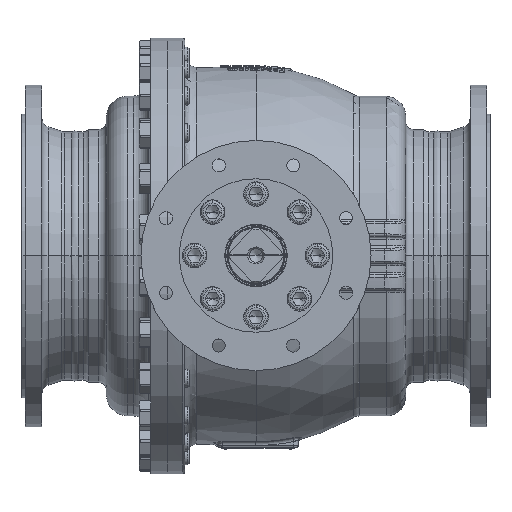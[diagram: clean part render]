
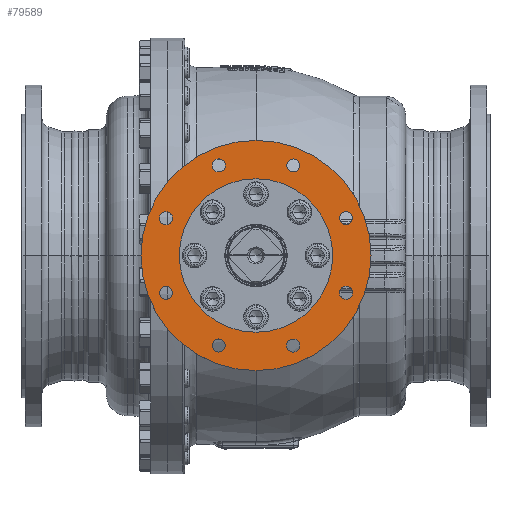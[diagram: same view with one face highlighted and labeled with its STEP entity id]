
A CAD part, top view. The second image highlights one B-rep face of the part: STEP entity #79589.
In plain terms, the highlighted planar face has unit normal (0, 0, 1).
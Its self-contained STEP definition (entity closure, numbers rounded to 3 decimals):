
#9987=CARTESIAN_POINT('',(0.,0.,376.));
#9988=DIRECTION('',(0.,0.,1.));
#9989=DIRECTION('',(0.,1.,0.));
#9990=AXIS2_PLACEMENT_3D('',#9987,#9988,#9989);
#9992=CARTESIAN_POINT('',(0.,0.,376.));
#9993=DIRECTION('',(0.,0.,-1.));
#9994=DIRECTION('',(0.,1.,0.));
#9995=AXIS2_PLACEMENT_3D('',#9992,#9993,#9994);
#9997=CARTESIAN_POINT('',(-48.601,-117.333,376.));
#9998=DIRECTION('',(0.,0.,-1.));
#9999=DIRECTION('',(0.,-1.,0.));
#10000=AXIS2_PLACEMENT_3D('',#9997,#9998,#9999);
#10002=CARTESIAN_POINT('',(-48.601,-117.333,376.));
#10003=DIRECTION('',(0.,0.,-1.));
#10004=DIRECTION('',(0.,1.,0.));
#10005=AXIS2_PLACEMENT_3D('',#10002,#10003,#10004);
#10007=CARTESIAN_POINT('',(-117.333,-48.601,376.));
#10008=DIRECTION('',(0.,0.,-1.));
#10009=DIRECTION('',(-0.707,-0.707,0.));
#10010=AXIS2_PLACEMENT_3D('',#10007,#10008,#10009);
#10012=CARTESIAN_POINT('',(-117.333,-48.601,376.));
#10013=DIRECTION('',(0.,0.,-1.));
#10014=DIRECTION('',(0.707,0.707,0.));
#10015=AXIS2_PLACEMENT_3D('',#10012,#10013,#10014);
#10017=CARTESIAN_POINT('',(-117.333,48.601,376.));
#10018=DIRECTION('',(0.,0.,-1.));
#10019=DIRECTION('',(-1.,0.,0.));
#10020=AXIS2_PLACEMENT_3D('',#10017,#10018,#10019);
#10022=CARTESIAN_POINT('',(-117.333,48.601,376.));
#10023=DIRECTION('',(0.,0.,-1.));
#10024=DIRECTION('',(1.,0.,0.));
#10025=AXIS2_PLACEMENT_3D('',#10022,#10023,#10024);
#10027=CARTESIAN_POINT('',(-48.601,117.333,376.));
#10028=DIRECTION('',(0.,0.,-1.));
#10029=DIRECTION('',(-0.707,0.707,0.));
#10030=AXIS2_PLACEMENT_3D('',#10027,#10028,#10029);
#10032=CARTESIAN_POINT('',(-48.601,117.333,376.));
#10033=DIRECTION('',(0.,0.,-1.));
#10034=DIRECTION('',(0.707,-0.707,0.));
#10035=AXIS2_PLACEMENT_3D('',#10032,#10033,#10034);
#10037=CARTESIAN_POINT('',(48.601,117.333,376.));
#10038=DIRECTION('',(0.,0.,-1.));
#10039=DIRECTION('',(0.,1.,0.));
#10040=AXIS2_PLACEMENT_3D('',#10037,#10038,#10039);
#10042=CARTESIAN_POINT('',(48.601,117.333,376.));
#10043=DIRECTION('',(0.,0.,-1.));
#10044=DIRECTION('',(0.,-1.,0.));
#10045=AXIS2_PLACEMENT_3D('',#10042,#10043,#10044);
#10047=CARTESIAN_POINT('',(117.333,48.601,376.));
#10048=DIRECTION('',(0.,0.,-1.));
#10049=DIRECTION('',(0.707,0.707,0.));
#10050=AXIS2_PLACEMENT_3D('',#10047,#10048,#10049);
#10052=CARTESIAN_POINT('',(117.333,48.601,376.));
#10053=DIRECTION('',(0.,0.,-1.));
#10054=DIRECTION('',(-0.707,-0.707,0.));
#10055=AXIS2_PLACEMENT_3D('',#10052,#10053,#10054);
#10057=CARTESIAN_POINT('',(117.333,-48.601,376.));
#10058=DIRECTION('',(0.,0.,-1.));
#10059=DIRECTION('',(1.,0.,0.));
#10060=AXIS2_PLACEMENT_3D('',#10057,#10058,#10059);
#10062=CARTESIAN_POINT('',(117.333,-48.601,376.));
#10063=DIRECTION('',(0.,0.,-1.));
#10064=DIRECTION('',(-1.,0.,0.));
#10065=AXIS2_PLACEMENT_3D('',#10062,#10063,#10064);
#10067=CARTESIAN_POINT('',(48.601,-117.333,376.));
#10068=DIRECTION('',(0.,0.,-1.));
#10069=DIRECTION('',(0.707,-0.707,0.));
#10070=AXIS2_PLACEMENT_3D('',#10067,#10068,#10069);
#10072=CARTESIAN_POINT('',(48.601,-117.333,376.));
#10073=DIRECTION('',(0.,0.,-1.));
#10074=DIRECTION('',(-0.707,0.707,0.));
#10075=AXIS2_PLACEMENT_3D('',#10072,#10073,#10074);
#10081=CARTESIAN_POINT('',(0.,0.,376.));
#10082=DIRECTION('',(0.,0.,-1.));
#10083=DIRECTION('',(0.,1.,0.));
#10084=AXIS2_PLACEMENT_3D('',#10081,#10082,#10083);
#10090=CARTESIAN_POINT('',(0.,0.,376.));
#10091=DIRECTION('',(0.,0.,1.));
#10092=DIRECTION('',(0.,1.,0.));
#10093=AXIS2_PLACEMENT_3D('',#10090,#10091,#10092);
#62276=CARTESIAN_POINT('',(0.,100.,376.));
#62278=VERTEX_POINT('',#62276);
#62280=CARTESIAN_POINT('',(0.,-100.,376.));
#62282=VERTEX_POINT('',#62280);
#62352=CARTESIAN_POINT('',(-48.601,-125.833,376.));
#62353=CARTESIAN_POINT('',(-48.601,-108.833,376.));
#62354=VERTEX_POINT('',#62352);
#62355=VERTEX_POINT('',#62353);
#62358=CARTESIAN_POINT('',(-123.343,-54.611,376.));
#62359=CARTESIAN_POINT('',(-111.322,-42.59,376.));
#62360=VERTEX_POINT('',#62358);
#62361=VERTEX_POINT('',#62359);
#62364=CARTESIAN_POINT('',(-125.833,48.601,376.));
#62365=CARTESIAN_POINT('',(-108.833,48.601,376.));
#62366=VERTEX_POINT('',#62364);
#62367=VERTEX_POINT('',#62365);
#62370=CARTESIAN_POINT('',(-54.611,123.343,376.));
#62371=CARTESIAN_POINT('',(-42.59,111.322,376.));
#62372=VERTEX_POINT('',#62370);
#62373=VERTEX_POINT('',#62371);
#62385=CARTESIAN_POINT('',(0.,150.,376.));
#62387=VERTEX_POINT('',#62385);
#62389=CARTESIAN_POINT('',(0.,-150.,376.));
#62391=VERTEX_POINT('',#62389);
#62400=CARTESIAN_POINT('',(48.601,125.833,376.));
#62401=CARTESIAN_POINT('',(48.601,108.833,376.));
#62402=VERTEX_POINT('',#62400);
#62403=VERTEX_POINT('',#62401);
#62408=CARTESIAN_POINT('',(123.343,54.611,376.));
#62409=CARTESIAN_POINT('',(111.322,42.59,376.));
#62410=VERTEX_POINT('',#62408);
#62411=VERTEX_POINT('',#62409);
#62416=CARTESIAN_POINT('',(125.833,-48.601,376.));
#62417=CARTESIAN_POINT('',(108.833,-48.601,376.));
#62418=VERTEX_POINT('',#62416);
#62419=VERTEX_POINT('',#62417);
#62424=CARTESIAN_POINT('',(54.611,-123.343,376.));
#62425=CARTESIAN_POINT('',(42.59,-111.322,376.));
#62426=VERTEX_POINT('',#62424);
#62427=VERTEX_POINT('',#62425);
#79526=CARTESIAN_POINT('',(0.,0.,376.));
#79527=DIRECTION('',(0.,0.,1.));
#79528=DIRECTION('',(0.,1.,0.));
#79529=AXIS2_PLACEMENT_3D('',#79526,#79527,#79528);
#79530=PLANE('',#79529);
#79531=ORIENTED_EDGE('',*,*,#79519,.F.);
#79532=ORIENTED_EDGE('',*,*,#79508,.T.);
#79533=EDGE_LOOP('',(#79531,#79532));
#79534=FACE_OUTER_BOUND('',#79533,.F.);
#79536=ORIENTED_EDGE('',*,*,#79535,.F.);
#79538=ORIENTED_EDGE('',*,*,#79537,.T.);
#79539=EDGE_LOOP('',(#79536,#79538));
#79540=FACE_BOUND('',#79539,.F.);
#79542=ORIENTED_EDGE('',*,*,#79541,.F.);
#79544=ORIENTED_EDGE('',*,*,#79543,.F.);
#79545=EDGE_LOOP('',(#79542,#79544));
#79546=FACE_BOUND('',#79545,.F.);
#79548=ORIENTED_EDGE('',*,*,#79547,.F.);
#79550=ORIENTED_EDGE('',*,*,#79549,.F.);
#79551=EDGE_LOOP('',(#79548,#79550));
#79552=FACE_BOUND('',#79551,.F.);
#79554=ORIENTED_EDGE('',*,*,#79553,.F.);
#79556=ORIENTED_EDGE('',*,*,#79555,.F.);
#79557=EDGE_LOOP('',(#79554,#79556));
#79558=FACE_BOUND('',#79557,.F.);
#79560=ORIENTED_EDGE('',*,*,#79559,.F.);
#79562=ORIENTED_EDGE('',*,*,#79561,.F.);
#79563=EDGE_LOOP('',(#79560,#79562));
#79564=FACE_BOUND('',#79563,.F.);
#79566=ORIENTED_EDGE('',*,*,#79565,.F.);
#79568=ORIENTED_EDGE('',*,*,#79567,.F.);
#79569=EDGE_LOOP('',(#79566,#79568));
#79570=FACE_BOUND('',#79569,.F.);
#79572=ORIENTED_EDGE('',*,*,#79571,.F.);
#79574=ORIENTED_EDGE('',*,*,#79573,.F.);
#79575=EDGE_LOOP('',(#79572,#79574));
#79576=FACE_BOUND('',#79575,.F.);
#79578=ORIENTED_EDGE('',*,*,#79577,.F.);
#79580=ORIENTED_EDGE('',*,*,#79579,.F.);
#79581=EDGE_LOOP('',(#79578,#79580));
#79582=FACE_BOUND('',#79581,.F.);
#79584=ORIENTED_EDGE('',*,*,#79583,.F.);
#79586=ORIENTED_EDGE('',*,*,#79585,.F.);
#79587=EDGE_LOOP('',(#79584,#79586));
#79588=FACE_BOUND('',#79587,.F.);
#79589=ADVANCED_FACE('',(#79534,#79540,#79546,#79552,#79558,#79564,#79570,
#79576,#79582,#79588),#79530,.T.);
#9991=CIRCLE('',#9990,150.);
#9996=CIRCLE('',#9995,150.);
#10001=CIRCLE('',#10000,8.5);
#10006=CIRCLE('',#10005,8.5);
#10011=CIRCLE('',#10010,8.5);
#10016=CIRCLE('',#10015,8.5);
#10021=CIRCLE('',#10020,8.5);
#10026=CIRCLE('',#10025,8.5);
#10031=CIRCLE('',#10030,8.5);
#10036=CIRCLE('',#10035,8.5);
#10041=CIRCLE('',#10040,8.5);
#10046=CIRCLE('',#10045,8.5);
#10051=CIRCLE('',#10050,8.5);
#10056=CIRCLE('',#10055,8.5);
#10061=CIRCLE('',#10060,8.5);
#10066=CIRCLE('',#10065,8.5);
#10071=CIRCLE('',#10070,8.5);
#10076=CIRCLE('',#10075,8.5);
#10085=CIRCLE('',#10084,100.);
#10094=CIRCLE('',#10093,100.);
#79508=EDGE_CURVE('',#62387,#62391,#9996,.T.);
#79519=EDGE_CURVE('',#62387,#62391,#9991,.T.);
#79535=EDGE_CURVE('',#62278,#62282,#10085,.T.);
#79537=EDGE_CURVE('',#62278,#62282,#10094,.T.);
#79541=EDGE_CURVE('',#62354,#62355,#10001,.T.);
#79543=EDGE_CURVE('',#62355,#62354,#10006,.T.);
#79547=EDGE_CURVE('',#62360,#62361,#10011,.T.);
#79549=EDGE_CURVE('',#62361,#62360,#10016,.T.);
#79553=EDGE_CURVE('',#62366,#62367,#10021,.T.);
#79555=EDGE_CURVE('',#62367,#62366,#10026,.T.);
#79559=EDGE_CURVE('',#62372,#62373,#10031,.T.);
#79561=EDGE_CURVE('',#62373,#62372,#10036,.T.);
#79565=EDGE_CURVE('',#62402,#62403,#10041,.T.);
#79567=EDGE_CURVE('',#62403,#62402,#10046,.T.);
#79571=EDGE_CURVE('',#62410,#62411,#10051,.T.);
#79573=EDGE_CURVE('',#62411,#62410,#10056,.T.);
#79577=EDGE_CURVE('',#62418,#62419,#10061,.T.);
#79579=EDGE_CURVE('',#62419,#62418,#10066,.T.);
#79583=EDGE_CURVE('',#62426,#62427,#10071,.T.);
#79585=EDGE_CURVE('',#62427,#62426,#10076,.T.);
